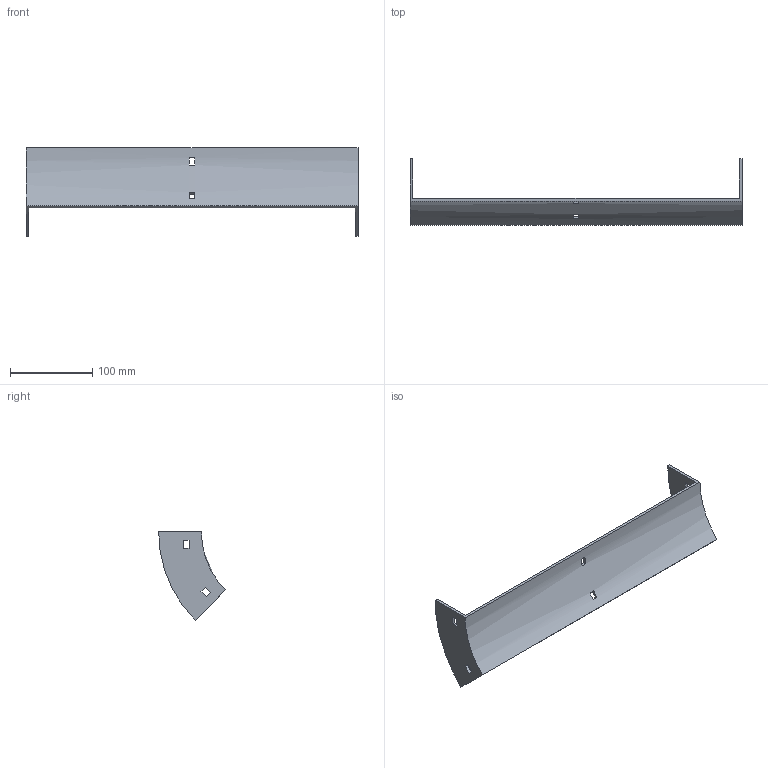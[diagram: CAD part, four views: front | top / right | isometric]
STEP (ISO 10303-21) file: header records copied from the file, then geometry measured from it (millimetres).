
FILE_DESCRIPTION (( 'STEP AP214' ), '1' );
FILE_NAME ('34B1B400.step', '2025-02-21T09:28:29', ( '' ), ( '' ), 'SwSTEP 2.0', 'SolidWorks 2023', '' );
FILE_SCHEMA (( 'AUTOMOTIVE_DESIGN' ));
Length unit declared in the file: millimetre
Products named in the file (1): 34B1B400
Bounding box: 404 x 81.29 x 107.48 mm (x, y, z)
Volume: 145667.2 mm3; surface area: 88267.5 mm2
Topology: 1 solids, 1 shells, 34 faces, 96 edges, 64 vertices
Faces by surface type: plane 30, cylinder 4
Entity records: 1143 total; most frequent: CARTESIAN_POINT 195, ORIENTED_EDGE 192, DIRECTION 182, EDGE_CURVE 96, VECTOR 80, LINE 80, VERTEX_POINT 64, AXIS2_PLACEMENT_3D 51
